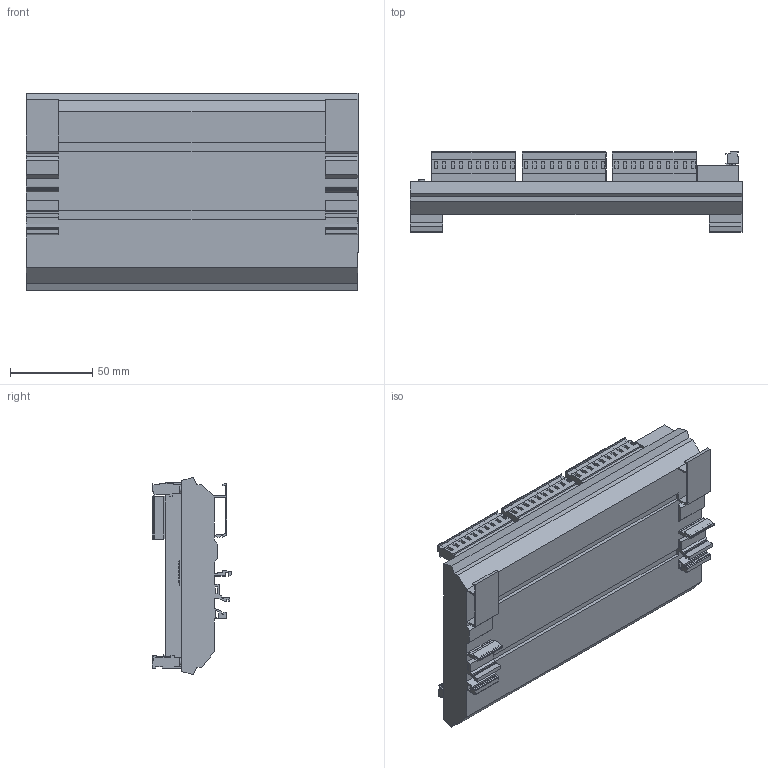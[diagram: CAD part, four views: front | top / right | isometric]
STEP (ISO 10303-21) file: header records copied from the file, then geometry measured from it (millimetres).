
FILE_DESCRIPTION (( 'STEP AP203' ), '1' );
FILE_NAME ('1632mt.STEP', '2022-07-09T06:16:18', ( '' ), ( '' ), 'SwSTEP 2.0', 'SolidWorks 2019', '' );
FILE_SCHEMA (( 'CONFIG_CONTROL_DESIGN' ));
Length unit declared in the file: millimetre
Products named in the file (1): 1632mt
Bounding box: 202 x 48.67 x 120 mm (x, y, z)
Volume: 510073 mm3; surface area: 92730.8 mm2
Topology: 1 solids, 1 shells, 996 faces, 2891 edges, 1918 vertices
Faces by surface type: plane 832, cylinder 164
Entity records: 32910 total; most frequent: CARTESIAN_POINT 5806, ORIENTED_EDGE 5782, DIRECTION 5343, EDGE_CURVE 2891, LINE 2433, VECTOR 2433, VERTEX_POINT 1918, AXIS2_PLACEMENT_3D 1455
